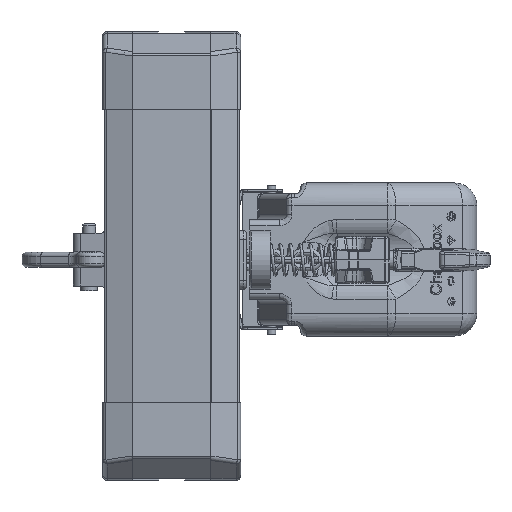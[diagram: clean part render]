
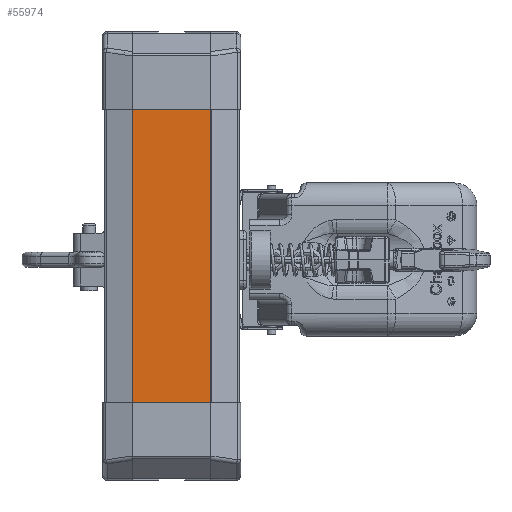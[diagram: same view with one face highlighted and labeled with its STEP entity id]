
A CAD part, left-side view. The second image highlights one B-rep face of the part: STEP entity #55974.
In plain terms, the highlighted planar face has unit normal (-1, 0, 0).
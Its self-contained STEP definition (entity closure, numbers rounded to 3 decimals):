
#2161=LINE('',#95767,#6327);
#2164=LINE('',#95780,#6330);
#2169=LINE('',#95800,#6335);
#2170=LINE('',#95801,#6336);
#6327=VECTOR('',#71383,1000.);
#6330=VECTOR('',#71394,1000.);
#6335=VECTOR('',#71413,1000.);
#6336=VECTOR('',#71414,1000.);
#15880=ORIENTED_EDGE('',*,*,#31357,.T.);
#15881=ORIENTED_EDGE('',*,*,#31366,.T.);
#15882=ORIENTED_EDGE('',*,*,#31351,.T.);
#15883=ORIENTED_EDGE('',*,*,#31367,.T.);
#31351=EDGE_CURVE('',#39211,#39210,#2161,.T.);
#31357=EDGE_CURVE('',#39213,#39216,#2164,.F.);
#31366=EDGE_CURVE('',#39216,#39211,#2169,.F.);
#31367=EDGE_CURVE('',#39210,#39213,#2170,.F.);
#39210=VERTEX_POINT('',#95766);
#39211=VERTEX_POINT('',#95768);
#39213=VERTEX_POINT('',#95774);
#39216=VERTEX_POINT('',#95779);
#46581=EDGE_LOOP('',(#15880,#15881,#15882,#15883));
#50665=FACE_BOUND('',#46581,.T.);
#54157=PLANE('',#63289);
#55974=ADVANCED_FACE('',(#50665),#54157,.F.);
#63289=AXIS2_PLACEMENT_3D('',#95799,#71411,#71412);
#71383=DIRECTION('',(0.,0.,1.));
#71394=DIRECTION('',(0.,0.,1.));
#71411=DIRECTION('',(1.,0.,0.));
#71412=DIRECTION('',(0.,0.,-1.));
#71413=DIRECTION('',(0.,1.,0.));
#71414=DIRECTION('',(0.,-1.,0.));
#95766=CARTESIAN_POINT('',(-162.892,-708.297,488.927));
#95767=CARTESIAN_POINT('',(-162.892,-708.297,-330.073));
#95768=CARTESIAN_POINT('',(-162.892,-708.297,123.427));
#95774=CARTESIAN_POINT('',(-162.892,-624.187,488.927));
#95779=CARTESIAN_POINT('',(-162.892,-624.187,123.427));
#95780=CARTESIAN_POINT('',(-162.892,-624.187,-330.073));
#95799=CARTESIAN_POINT('',(-162.892,-706.393,-325.073));
#95800=CARTESIAN_POINT('',(-162.892,-706.393,123.427));
#95801=CARTESIAN_POINT('',(-162.892,-706.393,488.927));
